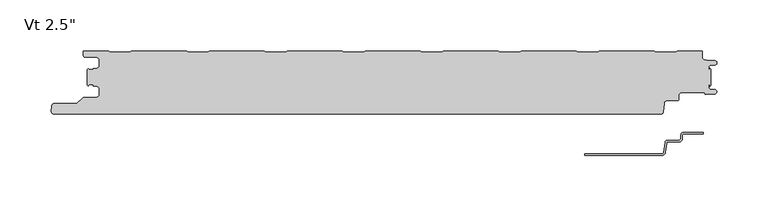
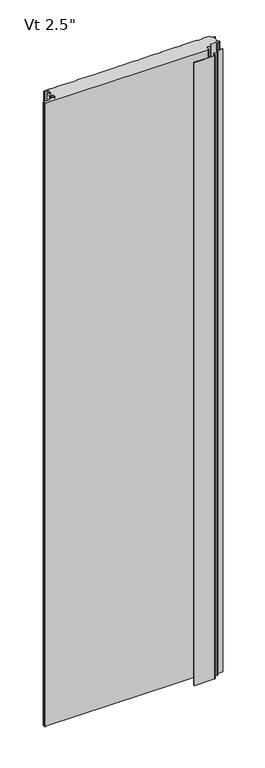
"""IFC4 building model written with IfcOpenShell, lengths in millimetres: plate geometry."""

import ifcopenshell
import ifcopenshell.guid

model = None  # the IFC model being written
_history = None  # IfcOwnerHistory: only IFC2X3 demands one
_inside = {}  # id of a spatial element -> (the spatial element, [elements in it])
_under = {}  # id of a project, library or spatial element -> (it, [spatial elements below it])
_declared = {}  # id of a project -> (the project, [libraries it declares])
_typed = {}  # id of a type object -> (the type object, [elements of that type])
_made_of = {}  # id of a material, layer set ... -> (it, [elements and type objects made of it])


def new_model(schema):
    """Start an empty IFC model of exactly this schema.

    Asked for "IFC4X3", IfcOpenShell would pick the latest addendum, in which some entities
    have other attributes; the version numbers below select the first issue.
    IFC2X3 requires an IfcOwnerHistory on every rooted entity: one is made here for all.
    """
    global model, _history
    if schema == "IFC4X3":
        model = ifcopenshell.file(schema_version=(4, 3, 0, 0))
    else:
        model = ifcopenshell.file(schema=schema)
    _inside.clear()
    _under.clear()
    _declared.clear()
    _typed.clear()
    _made_of.clear()
    _history = None
    if model.schema == "IFC2X3":
        org = make("IfcOrganization", Name="unknown")
        user = make(
            "IfcPersonAndOrganization",
            ThePerson=make("IfcPerson", FamilyName="unknown"),
            TheOrganization=org,
        )
        app = make(
            "IfcApplication",
            ApplicationDeveloper=org,
            Version="unknown",
            ApplicationFullName="unknown",
            ApplicationIdentifier="unknown",
        )
        _history = make(
            "IfcOwnerHistory",
            OwningUser=user,
            OwningApplication=app,
            ChangeAction="ADDED",
            CreationDate=0,
        )
    return model


def make(cls, **values):
    """One entity of the class cls with the attributes given. An attribute that is None is left unset."""
    return model.create_entity(
        cls, **{name: value for name, value in values.items() if value is not None}
    )


def rooted(cls, **values):
    """An entity with a GlobalId (a new one), such as an element, a storey or a relation."""
    return make(cls, GlobalId=ifcopenshell.guid.new(), OwnerHistory=_history, **values)


def si_unit(unit_type, name, prefix=None):
    """IfcSIUnit, for example si_unit("LENGTHUNIT", "METRE", prefix="MILLI")."""
    return make("IfcSIUnit", UnitType=unit_type, Prefix=prefix, Name=name)


def assignment(units):
    """IfcUnitAssignment: the units of a project."""
    return None if units is None else make("IfcUnitAssignment", Units=units)


def point(xyz):
    """IfcCartesianPoint."""
    return None if xyz is None else make("IfcCartesianPoint", Coordinates=xyz)


def direction(xyz):
    """IfcDirection."""
    return None if xyz is None else make("IfcDirection", DirectionRatios=xyz)


def frame(location, z_axis=None, x_axis=None):
    """IfcAxis2Placement3D, a coordinate frame: its origin and axes. An axis left out is left unset."""
    return make(
        "IfcAxis2Placement3D",
        Location=point(location),
        Axis=direction(z_axis),
        RefDirection=direction(x_axis),
    )


def origin():
    """The frame at (0, 0, 0) with its axes left unset."""
    return frame((0.0, 0.0, 0.0))


def place(relative_to, where):
    """IfcLocalPlacement: puts the frame where relative to a parent placement (None: the world)."""
    return make(
        "IfcLocalPlacement", PlacementRelTo=relative_to, RelativePlacement=where
    )


def context(
    kind, dimensions, precision=None, world=None, true_north=None, identifier=None
):
    """IfcGeometricRepresentationContext, for example the 3D "Model" context."""
    return make(
        "IfcGeometricRepresentationContext",
        ContextIdentifier=identifier,
        ContextType=kind,
        CoordinateSpaceDimension=dimensions,
        Precision=precision,
        WorldCoordinateSystem=world,
        TrueNorth=true_north,
    )


def project(units=None, contexts=None):
    """IfcProject with its units and contexts."""
    return rooted(
        "IfcProject",
        Name="project",
        RepresentationContexts=contexts,
        UnitsInContext=assignment(units),
    )


def spatial(cls, under=None, at=None, **own):
    """A site, building, storey or space (cls), placed at a placement, below another one or the project."""
    s = rooted(cls, ObjectPlacement=at, **own)
    if under is not None:
        _under.setdefault(under.id(), (under, []))[1].append(s)
    return s


def polyline(points):
    """IfcPolyline through the points."""
    return make("IfcPolyline", Points=[point(p) for p in points])


def circle_curve(where, radius):
    """IfcCircle in the frame where."""
    return make("IfcCircle", Position=where, Radius=radius)


def shape(context_of_items, identifier, shape_type, items):
    """IfcShapeRepresentation: the items that make up one representation, for example the "Body"."""
    return make(
        "IfcShapeRepresentation",
        ContextOfItems=context_of_items,
        RepresentationIdentifier=identifier,
        RepresentationType=shape_type,
        Items=items,
    )


def source(mapping_origin, context_of_items, identifier, shape_type, items):
    """IfcRepresentationMap: a shape defined once, which mapped items show again and again."""
    return make(
        "IfcRepresentationMap",
        MappingOrigin=mapping_origin,
        MappedRepresentation=shape(context_of_items, identifier, shape_type, items),
    )


def transform(
    local_origin,
    x_axis=None,
    y_axis=None,
    z_axis=None,
    scale=None,
    scale2=None,
    scale3=None,
    uniform=True,
):
    """IfcCartesianTransformationOperator3D, or its non-uniform kind. x_axis, y_axis, z_axis: its Axis1, 2, 3."""
    if uniform:
        return make(
            "IfcCartesianTransformationOperator3D",
            Axis1=direction(x_axis),
            Axis2=direction(y_axis),
            LocalOrigin=point(local_origin),
            Scale=scale,
            Axis3=direction(z_axis),
        )
    return make(
        "IfcCartesianTransformationOperator3DnonUniform",
        Axis1=direction(x_axis),
        Axis2=direction(y_axis),
        LocalOrigin=point(local_origin),
        Scale=scale,
        Axis3=direction(z_axis),
        Scale2=scale2,
        Scale3=scale3,
    )


def mapped(mapping_source, mapping_target):
    """IfcMappedItem: shows the shape of a source again, moved by a transform."""
    return make(
        "IfcMappedItem", MappingSource=mapping_source, MappingTarget=mapping_target
    )


def made_of(thing, what):
    """Note that an element or type object is made of a material, layer set ...; save() writes the relation."""
    if what is not None:
        _made_of.setdefault(what.id(), (what, []))[1].append(thing)
    return thing


def element(
    cls,
    number,
    at=None,
    inside=None,
    cuts=None,
    type_object=None,
    material=None,
    context=None,
    identifier="Body",
    shape_type=None,
    held_by="IfcProductDefinitionShape",
    body=None,
    shapes=None,
    **own,
):
    """One element of the class cls, such as IfcWall. Its Tag is "e" and its number.

    at: its placement. inside: the storey or other place that contains it. cuts: it is an
    opening in that element (IfcRelVoidsElement). A single representation is given by context,
    identifier, shape_type and body (its items); several are given by shapes. held_by: the class
    of the entity that holds the representations. save() writes the other relations.
    """
    e = rooted(cls, Tag="e%d" % number, ObjectPlacement=at, **own)
    if body is not None:
        shapes = [shape(context, identifier, shape_type, body)]
    if shapes is not None:
        e.Representation = make(held_by, Representations=shapes)
    if inside is not None:
        _inside.setdefault(inside.id(), (inside, []))[1].append(e)
    if cuts is not None:
        rooted(
            "IfcRelVoidsElement", RelatingBuildingElement=cuts, RelatedOpeningElement=e
        )
    if type_object is not None:
        _typed.setdefault(type_object.id(), (type_object, []))[1].append(e)
    return made_of(e, material)


def aggregate(whole, parts):
    """IfcRelAggregates: a whole, such as a stair, and the parts it consists of."""
    return rooted("IfcRelAggregates", RelatingObject=whole, RelatedObjects=parts)


def save(model, path):
    """Write the relations noted so far, then the file.

    IfcRelAggregates (storeys below a building ...), IfcRelContainedInSpatialStructure (elements
    in a storey), IfcRelDefinesByType, IfcRelAssociatesMaterial and IfcRelDeclares: one each for
    every whole, place, type object, material and project.
    """
    for whole, parts in _under.values():
        aggregate(whole, parts)
    for where, things in _inside.values():
        rooted(
            "IfcRelContainedInSpatialStructure",
            RelatedElements=things,
            RelatingStructure=where,
        )
    for kind, things in _typed.values():
        rooted("IfcRelDefinesByType", RelatedObjects=things, RelatingType=kind)
    for what, things in _made_of.values():
        rooted("IfcRelAssociatesMaterial", RelatedObjects=things, RelatingMaterial=what)
    for by, libraries in _declared.values():
        rooted("IfcRelDeclares", RelatingContext=by, RelatedDefinitions=libraries)
    model.write(path)


def plane_surface(at):
    """IfcPlane: the flat surface through the origin of the frame at, square to its z axis."""
    return make("IfcPlane", Position=at)


def cylinder_surface(at, radius):
    """IfcCylindricalSurface: all points at the distance radius from the z axis of the frame at."""
    return make("IfcCylindricalSurface", Position=at, Radius=radius)


def revolved_surface(curve, axis_point, axis_direction):
    """IfcSurfaceOfRevolution: the curve turned about the line through axis_point along axis_direction."""
    return make(
        "IfcSurfaceOfRevolution",
        SweptCurve=make("IfcArbitraryOpenProfileDef", ProfileType="CURVE", Curve=curve),
        AxisPosition=make("IfcAxis1Placement", Location=point(axis_point), Axis=direction(axis_direction)),
    )


def advanced_brep(points, edges, surfaces, faces):
    """IfcAdvancedBrep: a solid bounded by faces that lie on surfaces and meet in shared edges.

    An edge is (start, end): straight between two places in points (the first is 0);
    or (start, end, curve); or (start, end, curve, False) where it runs against its curve.
    A face is (place in surfaces, loops), or (place, loops, False) where it looks against
    its surface's normal. A loop lists edges by number (the first is 1), with a minus sign
    where the edge is run from its end to its start. The first loop is the outer one.
    """
    corners = [point(p) for p in points]
    vertices = [make("IfcVertexPoint", VertexGeometry=c) for c in corners]
    made = []
    for start, end, *more in edges:
        made.append(
            make(
                "IfcEdgeCurve",
                EdgeStart=vertices[start],
                EdgeEnd=vertices[end],
                EdgeGeometry=more[0] if more else make("IfcPolyline", Points=[corners[start], corners[end]]),
                SameSense=more[1] if len(more) > 1 else True,
            )
        )
    hull = []
    for where, loops, *sense in faces:
        bounds = []
        for j, loop in enumerate(loops):
            ring = [make("IfcOrientedEdge", EdgeElement=made[abs(k) - 1], Orientation=k > 0) for k in loop]
            bounds.append(
                make(
                    "IfcFaceOuterBound" if j == 0 else "IfcFaceBound",
                    Bound=make("IfcEdgeLoop", EdgeList=ring),
                    Orientation=True,
                )
            )
        hull.append(make("IfcAdvancedFace", Bounds=bounds, FaceSurface=surfaces[where], SameSense=sense[0] if sense else True))
    return make("IfcAdvancedBrep", Outer=make("IfcClosedShell", CfsFaces=hull))


def plate_1f315af2(model_context):
    return source(origin(), model_context, "Body", "AdvancedBrep", [
        advanced_brep(
        [(278.4543181, -80.5008679, 0.0), (297.1995181, -80.5008679, 0.0), (297.1995181, -82.0248679, 0.0), (278.4543181, -82.0248679, 0.0), (276.9303181, -83.5488679, 0.0), (276.9303181, -86.6476679, 0.0), (273.4759181, -90.1020679, 0.0), (262.2633607, -90.1020679, 0.0), (261.5042604, -90.7976552, 0.0), (260.3094328, -100.3416507, 0.0), (257.2730313, -103.124, 0.0), (181.7057181, -103.1360323, 0.0), (181.7057181, -101.6, 0.0), (257.2730313, -101.6, 0.0), (258.7912321, -100.2088254, 0.0), (259.9860597, -90.6648299, 0.0), (262.2633607, -88.5780679, 0.0), (273.4759181, -88.5780679, 0.0), (275.4063181, -86.6476679, 0.0), (275.4063181, -83.5488679, 0.0), (278.4543181, -80.5008679, 2400.0), (275.4063181, -83.5488679, 2400.0), (275.4063181, -86.6476679, 2400.0), (273.4759181, -88.5780679, 2400.0), (262.2633607, -88.5780679, 2400.0), (259.9860597, -90.6648299, 2400.0), (258.7912321, -100.2088254, 2400.0), (257.2730313, -101.6, 2400.0), (181.7057181, -101.6, 2400.0), (181.7057181, -103.1360323, 2400.0), (257.2730313, -103.1360323, 2400.0), (260.3094328, -100.3416507, 2400.0), (261.5042604, -90.7976552, 2400.0), (262.2633607, -90.1020679, 2400.0), (273.4759181, -90.1020679, 2400.0), (276.9303181, -86.6476679, 2400.0), (276.9303181, -83.5488679, 2400.0), (278.4543181, -82.0248679, 2400.0), (297.1995181, -82.0248679, 2400.0), (297.1995181, -80.5008679, 2400.0)],
        [
            (0, 1),
            (1, 2),
            (2, 3),
            (3, 4, circle_curve(frame((278.4543181, -83.5488679, 0.0), z_axis=(0.0, 0.0, 1.0), x_axis=(0.0, 1.0, 0.0)), 1.524)),
            (4, 5),
            (5, 6, circle_curve(frame((273.4759181, -86.6476679, 0.0), z_axis=(0.0, 0.0, -1.0), x_axis=(0.0, 1.0, 0.0)), 3.4544)),
            (6, 7),
            (7, 8, circle_curve(frame((262.2633607, -90.8640679, 0.0), z_axis=(0.0, 0.0, 1.0), x_axis=(0.0, 1.0, 0.0)), 0.762)),
            (8, 9),
            (9, 10, circle_curve(frame((257.2730313, -100.076, 0.0), z_axis=(0.0, 0.0, -1.0), x_axis=(0.0, 1.0, 0.0)), 3.048)),
            (10, 11),
            (11, 12),
            (12, 13),
            (13, 14, circle_curve(frame((257.2730313, -100.076, 0.0), z_axis=(0.0, 0.0, 1.0), x_axis=(0.0, 1.0, 0.0)), 1.524)),
            (14, 15),
            (15, 16, circle_curve(frame((262.2633607, -90.8640679, 0.0), z_axis=(0.0, 0.0, -1.0), x_axis=(0.0, 1.0, 0.0)), 2.286)),
            (16, 17),
            (17, 18, circle_curve(frame((273.4759181, -86.6476679, 0.0), z_axis=(0.0, 0.0, 1.0), x_axis=(0.0, 1.0, 0.0)), 1.9304)),
            (18, 19),
            (19, 0, circle_curve(frame((278.4543181, -83.5488679, 0.0), z_axis=(0.0, 0.0, -1.0), x_axis=(0.0, 1.0, 0.0)), 3.048)),
            (20, 21, circle_curve(frame((278.4543181, -83.5488679, 2400.0), z_axis=(0.0, 0.0, 1.0), x_axis=(0.0, 1.0, 0.0)), 3.048)),
            (21, 22),
            (22, 23, circle_curve(frame((273.4759181, -86.6476679, 2400.0), z_axis=(0.0, 0.0, -1.0), x_axis=(0.0, 1.0, 0.0)), 1.9304)),
            (23, 24),
            (24, 25, circle_curve(frame((262.2633607, -90.8640679, 2400.0), z_axis=(0.0, 0.0, 1.0), x_axis=(0.0, 1.0, 0.0)), 2.286)),
            (25, 26),
            (26, 27, circle_curve(frame((257.2730313, -100.076, 2400.0), z_axis=(0.0, 0.0, -1.0), x_axis=(0.0, 1.0, 0.0)), 1.524)),
            (27, 28),
            (28, 29),
            (29, 30),
            (30, 31, circle_curve(frame((257.2730313, -100.076, 2400.0), z_axis=(0.0, 0.0, 1.0), x_axis=(0.0, 1.0, 0.0)), 3.048)),
            (31, 32),
            (32, 33, circle_curve(frame((262.2633607, -90.8640679, 2400.0), z_axis=(0.0, 0.0, -1.0), x_axis=(0.0, 1.0, 0.0)), 0.762)),
            (33, 34),
            (34, 35, circle_curve(frame((273.4759181, -86.6476679, 2400.0), z_axis=(0.0, 0.0, 1.0), x_axis=(0.0, 1.0, 0.0)), 3.4544)),
            (35, 36),
            (36, 37, circle_curve(frame((278.4543181, -83.5488679, 2400.0), z_axis=(0.0, 0.0, -1.0), x_axis=(0.0, 1.0, 0.0)), 1.524)),
            (37, 38),
            (38, 39),
            (39, 20),
            (2, 38),
            (37, 3),
            (15, 25),
            (24, 16),
            (7, 33),
            (32, 8),
            (5, 35),
            (34, 6),
            (1, 39),
            (36, 4),
            (9, 31),
            (30, 10),
            (13, 27),
            (26, 14),
            (0, 20),
            (12, 28),
            (29, 11),
            (23, 17),
            (18, 22),
            (21, 19),
        ],
        [
            plane_surface(frame((297.1995181, -101.6, 0.0), z_axis=(0.0, 0.0, -1.0), x_axis=(-1.0, 0.0, 0.0))),
            plane_surface(frame((297.1995181, -101.6, 2400.0), z_axis=(0.0, 0.0, 1.0), x_axis=(-1.0, 0.0, 0.0))),
            plane_surface(frame((278.4543181, -82.0248679, 0.0), z_axis=(0.0, -1.0, 0.0), x_axis=(0.0, 0.0, 1.0))),
            cylinder_surface(frame((262.2633607, -90.8640679, 0.0), z_axis=(0.0, 0.0, -1.0), x_axis=(0.0, 1.0, 0.0)), 2.286),
            revolved_surface(polyline([(262.2633607, -90.1020679, 2400.0), (262.2633607, -90.1020679, 0.0)]), (262.2633607, -90.8640679, 0.0), (0.0, 0.0, 1.0)),
            cylinder_surface(frame((273.4759181, -86.6476679, 0.0), z_axis=(0.0, 0.0, -1.0), x_axis=(0.0, 1.0, 0.0)), 3.4544),
            plane_surface(frame((297.1995181, -82.0248679, 0.0), z_axis=(1.0, 0.0, 0.0), x_axis=(0.0, 0.0, 1.0))),
            revolved_surface(polyline([(278.4543181, -82.0248679, 2400.0), (278.4543181, -82.0248679, 0.0)]), (278.4543181, -83.5488679, 0.0), (0.0, 0.0, 1.0)),
            cylinder_surface(frame((257.2730313, -100.076, 0.0), z_axis=(0.0, 0.0, -1.0), x_axis=(0.0, 1.0, 0.0)), 3.048),
            revolved_surface(polyline([(257.2730313, -98.55199999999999, 2400.0), (257.2730313, -98.55199999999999, 0.0)]), (257.2730313, -100.076, 0.0), (0.0, 0.0, 1.0)),
            plane_surface(frame((297.1995181, -80.5008679, 0.0), z_axis=(0.0, 1.0, 0.0), x_axis=(0.0, 0.0, 1.0))),
            plane_surface(frame((259.9860597, -90.6648299, 0.0), z_axis=(-0.992254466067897, 0.12422187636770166, 0.0), x_axis=(0.0, 0.0, 1.0))),
            plane_surface(frame((257.2730313, -101.6, 0.0), z_axis=(0.0, 1.0, 0.0), x_axis=(0.0, 0.0, 1.0))),
            plane_surface(frame((260.3094328, -100.3416507, 0.0), z_axis=(0.9922544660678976, -0.12422187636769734, 0.0), x_axis=(0.0, 0.0, 1.0))),
            plane_surface(frame((276.9303181, -86.6476679, 0.0), z_axis=(1.0, 0.0, 0.0), x_axis=(0.0, 0.0, 1.0))),
            plane_surface(frame((181.7057181, -103.1360323, 0.0), z_axis=(0.0, -1.0, 0.0), x_axis=(0.0, 0.0, 1.0))),
            plane_surface(frame((181.7057181, -101.6, 0.0), z_axis=(-1.0, 0.0, 0.0), x_axis=(0.0, 0.0, 1.0))),
            plane_surface(frame((273.4759181, -88.5780679, 0.0), z_axis=(0.0, 1.0, 0.0), x_axis=(0.0, 0.0, 1.0))),
            plane_surface(frame((275.4063181, -83.5488679, 0.0), z_axis=(-1.0, 0.0, 0.0), x_axis=(0.0, 0.0, 1.0))),
            plane_surface(frame((262.2633607, -90.1020679, 0.0), z_axis=(0.0, -1.0, 0.0), x_axis=(0.0, 0.0, 1.0))),
            revolved_surface(polyline([(273.4759181, -84.7172679, 2400.0), (273.4759181, -84.7172679, 0.0)]), (273.4759181, -86.6476679, 0.0), (0.0, 0.0, 1.0)),
            cylinder_surface(frame((278.4543181, -83.5488679, 0.0), z_axis=(0.0, 0.0, -1.0), x_axis=(0.0, 1.0, 0.0)), 3.048),
        ],
        [
            (0, [[1, 2, 3, 4, 5, 6, 7, 8, 9, 10, 11, 12, 13, 14, 15, 16, 17, 18, 19, 20]]),
            (1, [[21, 22, 23, 24, 25, 26, 27, 28, 29, 30, 31, 32, 33, 34, 35, 36, 37, 38, 39, 40]]),
            (2, [[41, -38, 42, -3]]),
            (3, [[43, -25, 44, -16]]),
            (4, [[45, -33, 46, -8]]),
            (5, [[47, -35, 48, -6]]),
            (6, [[49, -39, -41, -2]]),
            (7, [[-42, -37, 50, -4]]),
            (8, [[51, -31, 52, -10]]),
            (9, [[53, -27, 54, -14]]),
            (10, [[55, -40, -49, -1]]),
            (11, [[-54, -26, -43, -15]]),
            (12, [[56, -28, -53, -13]]),
            (13, [[-46, -32, -51, -9]]),
            (14, [[-50, -36, -47, -5]]),
            (15, [[-52, -30, 57, -11]]),
            (16, [[-57, -29, -56, -12]]),
            (17, [[-44, -24, 58, -17]]),
            (18, [[59, -22, 60, -19]]),
            (19, [[-48, -34, -45, -7]]),
            (20, [[-58, -23, -59, -18]]),
            (21, [[-60, -21, -55, -20]]),
        ],
    ),
        advanced_brep(
        [(-303.7683001, -35.170875, 2400.0), (-302.5671761, -34.0014003, 2400.0), (-298.8087827, -34.0014003, 2400.0), (-298.8087827, -35.3998791, 2400.0), (-296.1096717, -35.3998791, 2400.0), (-292.7596764, -38.7498744, 2400.0), (-292.7596764, -43.1498656, 2400.0), (-296.1096717, -46.4998609, 2400.0), (-307.9205608, -46.4998609, 2400.0), (-309.1226385, -46.9977778, 2400.0), (-314.6247096, -52.4998489, 2400.0), (-336.7198392, -52.4998489, 2400.0), (-339.3765709, -54.7184509, 2400.0), (-339.8125699, -59.7002718, 2400.0), (-337.2521176, -62.4945967, 2400.0), (256.315622, -62.5, 2400.0), (258.2669057, -60.7149259, 2400.0), (259.021161, -52.2539491, 2400.0), (262.1653654, -49.4906462, 2400.0), (272.2583308, -49.4906462, 2400.0), (273.2097394, -48.5392375, 2400.0), (273.2097394, -45.3955822, 2400.0), (277.2091924, -41.3961292, 2400.0), (298.3895515, -41.3961292, 2400.0), (299.5334028, -43.376977, 2400.0), (308.506811, -43.0217167, 2400.0), (308.5037148, -38.8211391, 2400.0), (304.4977997, -38.5767242, 2400.0), (302.7686884, -36.7819116, 2400.0), (302.7686884, -33.997365, 2400.0), (303.7686884, -33.997365, 2400.0), (303.7686884, -35.584865, 2400.0), (304.8, -34.5535534, 2400.0), (304.8, -18.6184525, 2400.0), (303.7686884, -17.5871409, 2400.0), (303.7686884, -19.0015288, 2400.0), (302.7686884, -19.0015288, 2400.0), (302.7686884, -16.6743462, 2400.0), (304.4513685, -14.9256429, 2400.0), (308.5921924, -14.7059822, 2400.0), (308.5931719, -10.4046442, 2400.0), (300.1016499, -9.9974365, 2400.0), (296.2787013, -6.0026007, 2400.0), (296.2787013, -1.0, 2400.0), (271.7794011, -1.0, 2400.0), (270.3937682, -2.2002307, 2400.0), (251.0186019, -2.2002307, 2400.0), (249.6329689, -1.0, 2400.0), (195.5795535, -1.0, 2400.0), (194.1939206, -2.2002307, 2400.0), (174.8187543, -2.2002307, 2400.0), (173.4331213, -1.0, 2400.0), (119.3797059, -1.0, 2400.0), (117.994073, -2.2002307, 2400.0), (98.6189067, -2.2002307, 2400.0), (97.2332737, -1.0, 2400.0), (43.1798583, -1.0, 2400.0), (41.7942254, -2.2002307, 2400.0), (22.4190591, -2.2002307, 2400.0), (21.0334261, -1.0, 2400.0), (-33.0199893, -1.0, 2400.0), (-34.4056222, -2.2002307, 2400.0), (-53.7807885, -2.2002307, 2400.0), (-55.1664215, -1.0, 2400.0), (-109.2198369, -1.0, 2400.0), (-110.6054698, -2.2002307, 2400.0), (-129.9806361, -2.2002307, 2400.0), (-131.3662691, -1.0, 2400.0), (-185.4196845, -1.0, 2400.0), (-186.8053174, -2.2002307, 2400.0), (-206.1804837, -2.2002307, 2400.0), (-207.5661167, -1.0, 2400.0), (-261.6195321, -1.0, 2400.0), (-263.005165, -2.2002307, 2400.0), (-282.3803313, -2.2002307, 2400.0), (-283.765974, -0.9999916, 2400.0), (-308.2662506, -0.9999916, 2400.0), (-308.2662506, -5.2315389, 2400.0), (-306.4962564, -7.0015331, 2400.0), (-296.0762778, -7.0015331, 2400.0), (-292.776282, -10.301529, 2400.0), (-292.776282, -14.7015202, 2400.0), (-296.0762777, -18.0015159, 2400.0), (-298.7684875, -18.0015159, 2400.0), (-298.7684875, -19.0015105, 2400.0), (-302.7686911, -19.0015105, 2400.0), (-303.7686883, -18.0015192, 2400.0), (-304.8, -19.0328308, 2400.0), (-304.8, -34.1391751, 2400.0), (-303.7683001, -35.170875, 0.0), (-304.8, -34.1391751, 0.0), (-304.8, -19.0328308, 0.0), (-303.7686883, -18.0015192, 0.0), (-302.7686911, -19.0015105, 0.0), (-298.7684875, -19.0015105, 0.0), (-298.7684875, -18.0015159, 0.0), (-296.0762777, -18.0015159, 0.0), (-292.776282, -14.7015202, 0.0), (-292.776282, -10.301529, 0.0), (-296.0762778, -7.0015331, 0.0), (-306.4962564, -7.0015331, 0.0), (-308.2662506, -5.2315389, 0.0), (-308.2662506, -0.9999916, 0.0), (-283.765974, -0.9999916, 0.0), (-282.3803313, -2.2002307, 0.0), (-263.005165, -2.2002307, 0.0), (-261.6195321, -1.0, 0.0), (-207.5661167, -1.0, 0.0), (-206.1804837, -2.2002307, 0.0), (-186.8053174, -2.2002307, 0.0), (-185.4196845, -1.0, 0.0), (-131.3662691, -1.0, 0.0), (-129.9806361, -2.2002307, 0.0), (-110.6054698, -2.2002307, 0.0), (-109.2198369, -1.0, 0.0), (-55.1664215, -1.0, 0.0), (-53.7807885, -2.2002307, 0.0), (-34.4056222, -2.2002307, 0.0), (-33.0199893, -1.0, 0.0), (21.0334261, -1.0, 0.0), (22.4190591, -2.2002307, 0.0), (41.7942254, -2.2002307, 0.0), (43.1798583, -1.0, 0.0), (97.2332737, -1.0, 0.0), (98.6189067, -2.2002307, 0.0), (117.994073, -2.2002307, 0.0), (119.3797059, -1.0, 0.0), (173.4331213, -1.0, 0.0), (174.8187543, -2.2002307, 0.0), (194.1939206, -2.2002307, 0.0), (195.5795535, -1.0, 0.0), (249.6329689, -1.0, 0.0), (251.0186019, -2.2002307, 0.0), (270.3937682, -2.2002307, 0.0), (271.7794011, -1.0, 0.0), (296.2787013, -1.0, 0.0), (296.2787013, -6.0026007, 0.0), (300.1016499, -9.9974365, 0.0), (308.5931719, -10.4046442, 0.0), (308.5921924, -14.7059822, 0.0), (304.4513685, -14.9256429, 0.0), (302.7686884, -16.6743462, 0.0), (302.7686884, -19.0015288, 0.0), (303.7686884, -19.0015288, 0.0), (303.7686884, -17.5871409, 0.0), (304.8, -18.6184525, 0.0), (304.8, -34.5535534, 0.0), (303.7686884, -35.584865, 0.0), (303.7686884, -33.997365, 0.0), (302.7686884, -33.997365, 0.0), (302.7686884, -36.7819116, 0.0), (304.4977997, -38.5767242, 0.0), (308.5037148, -38.8211391, 0.0), (308.506811, -43.0217167, 0.0), (299.5334028, -43.376977, 0.0), (298.3895515, -41.3961292, 0.0), (277.2091924, -41.3961292, 0.0), (273.2097394, -45.3955822, 0.0), (273.2097394, -48.5392375, 0.0), (272.2583308, -49.4906462, 0.0), (262.1653654, -49.4906462, 0.0), (259.021161, -52.2539491, 0.0), (258.2669057, -60.7149259, 0.0), (256.315622, -62.5, 0.0), (-337.2521176, -62.5, 0.0), (-339.8125699, -59.7002718, 0.0), (-339.3765709, -54.7184509, 0.0), (-336.7198392, -52.4998489, 0.0), (-314.6247096, -52.4998489, 0.0), (-309.1226385, -46.9977778, 0.0), (-307.9205608, -46.4998609, 0.0), (-296.1096717, -46.4998609, 0.0), (-292.7596764, -43.1498656, 0.0), (-292.7596764, -38.7498744, 0.0), (-296.1096717, -35.3998791, 0.0), (-298.8087827, -35.3998791, 0.0), (-298.8087827, -34.0014003, 0.0), (-302.5671761, -34.0014003, 0.0)],
        [
            (0, 1, circle_curve(frame((-302.5686908, -35.2013969, 2400.0), z_axis=(0.0, 0.0, -1.0), x_axis=(-1.0, 0.0, 0.0)), 1.1999976)),
            (1, 2),
            (2, 3),
            (3, 4),
            (4, 5, circle_curve(frame((-296.1096717, -38.7498744, 2400.0), z_axis=(0.0, 0.0, -1.0), x_axis=(-1.0, 0.0, 0.0)), 3.3499953)),
            (5, 6),
            (6, 7, circle_curve(frame((-296.1096717, -43.1498656, 2400.0), z_axis=(0.0, 0.0, -1.0), x_axis=(-1.0, 0.0, 0.0)), 3.3499953)),
            (7, 8),
            (8, 9, circle_curve(frame((-307.9205608, -48.1998555, 2400.0), z_axis=(0.0, 0.0, 1.0), x_axis=(-1.0, 0.0, 0.0)), 1.6999946)),
            (9, 10),
            (10, 11),
            (11, 12, circle_curve(frame((-336.7198392, -55.1998415, 2400.0), z_axis=(0.0, 0.0, 1.0), x_axis=(-1.0, 0.0, 0.0)), 2.6999926)),
            (12, 13),
            (13, 14, circle_curve(frame((-337.2521176, -59.9243575, 2400.0), z_axis=(0.0, 0.0, 1.0), x_axis=(-1.0, 0.0, 0.0)), 2.5702393)),
            (14, 15),
            (15, 16, circle_curve(frame((256.315622, -60.5409784, 2400.0), z_axis=(0.0, 0.0, 1.0), x_axis=(-1.0, 0.0, 0.0)), 1.9590216)),
            (16, 17),
            (17, 18, circle_curve(frame((262.0396267, -52.5180321, 2400.0), z_axis=(0.0, 0.0, -1.0), x_axis=(-1.0, 0.0, 0.0)), 3.0299959)),
            (18, 19),
            (19, 20, circle_curve(frame((272.2583308, -48.5392375, 2400.0), z_axis=(0.0, 0.0, 1.0), x_axis=(-1.0, 0.0, 0.0)), 0.9514087)),
            (20, 21),
            (21, 22, circle_curve(frame((277.2091924, -45.3955822, 2400.0), z_axis=(0.0, 0.0, -1.0), x_axis=(-1.0, 0.0, 0.0)), 3.9994529)),
            (22, 23),
            (23, 24),
            (24, 25),
            (25, 26, circle_curve(frame((308.4236622, -40.921488, 2400.0), z_axis=(0.0, 0.0, 1.0), x_axis=(-1.0, 0.0, 0.0)), 2.1018739)),
            (26, 27),
            (27, 28, circle_curve(frame((304.6099653, -36.7383506, 2400.0), z_axis=(0.0, 0.0, -1.0), x_axis=(-1.0, 0.0, 0.0)), 1.8417922)),
            (28, 29),
            (29, 30),
            (30, 31),
            (31, 32),
            (32, 33),
            (33, 34),
            (34, 35),
            (35, 36),
            (36, 37),
            (37, 38, circle_curve(frame((304.5186869, -16.6743462, 2400.0), z_axis=(0.0, 0.0, -1.0), x_axis=(1.0, 0.0, 0.0)), 1.7499985)),
            (38, 39),
            (39, 40, circle_curve(frame((308.4781032, -12.5552871, 2400.0), z_axis=(0.0, 0.0, 1.0), x_axis=(1.0, 0.0, 0.0)), 2.153719)),
            (40, 41),
            (41, 42, circle_curve(frame((300.2939817, -5.9867338, 2400.0), z_axis=(0.0, 0.0, -1.0), x_axis=(1.0, 0.0, 0.0)), 4.0153117)),
            (42, 43),
            (43, 44),
            (44, 45),
            (45, 46),
            (46, 47),
            (47, 48),
            (48, 49),
            (49, 50),
            (50, 51),
            (51, 52),
            (52, 53),
            (53, 54),
            (54, 55),
            (55, 56),
            (56, 57),
            (57, 58),
            (58, 59),
            (59, 60),
            (60, 61),
            (61, 62),
            (62, 63),
            (63, 64),
            (64, 65),
            (65, 66),
            (66, 67),
            (67, 68),
            (68, 69),
            (69, 70),
            (70, 71),
            (71, 72),
            (72, 73),
            (73, 74),
            (74, 75),
            (75, 76),
            (76, 77),
            (77, 78, circle_curve(frame((-306.4962564, -5.2315389, 2400.0), z_axis=(0.0, 0.0, 1.0), x_axis=(1.0, 0.0, 0.0)), 1.7699942)),
            (78, 79),
            (79, 80, circle_curve(frame((-296.0762778, -10.301529, 2400.0), z_axis=(0.0, 0.0, -1.0), x_axis=(1.0, 0.0, 0.0)), 3.2999959)),
            (80, 81),
            (81, 82, circle_curve(frame((-296.0762777, -14.7015202, 2400.0), z_axis=(0.0, 0.0, -1.0), x_axis=(1.0, 0.0, 0.0)), 3.2999957)),
            (82, 83),
            (83, 84),
            (84, 85),
            (85, 86, circle_curve(frame((-302.7686911, -18.0015133, 2400.0), z_axis=(0.0, 0.0, -1.0), x_axis=(1.0, 0.0, 0.0)), 0.9999972)),
            (86, 87),
            (87, 88),
            (88, 0),
            (89, 90),
            (90, 91),
            (91, 92),
            (92, 93, circle_curve(frame((-302.7686911, -18.0015133, 0.0), z_axis=(0.0, 0.0, 1.0), x_axis=(1.0, 0.0, 0.0)), 0.9999972)),
            (93, 94),
            (94, 95),
            (95, 96),
            (96, 97, circle_curve(frame((-296.0762777, -14.7015202, 0.0), z_axis=(0.0, 0.0, 1.0), x_axis=(1.0, 0.0, 0.0)), 3.2999957)),
            (97, 98),
            (98, 99, circle_curve(frame((-296.0762778, -10.301529, 0.0), z_axis=(0.0, 0.0, 1.0), x_axis=(1.0, 0.0, 0.0)), 3.2999959)),
            (99, 100),
            (100, 101, circle_curve(frame((-306.4962564, -5.2315389, 0.0), z_axis=(0.0, 0.0, -1.0), x_axis=(1.0, 0.0, 0.0)), 1.7699942)),
            (101, 102),
            (102, 103),
            (103, 104),
            (104, 105),
            (105, 106),
            (106, 107),
            (107, 108),
            (108, 109),
            (109, 110),
            (110, 111),
            (111, 112),
            (112, 113),
            (113, 114),
            (114, 115),
            (115, 116),
            (116, 117),
            (117, 118),
            (118, 119),
            (119, 120),
            (120, 121),
            (121, 122),
            (122, 123),
            (123, 124),
            (124, 125),
            (125, 126),
            (126, 127),
            (127, 128),
            (128, 129),
            (129, 130),
            (130, 131),
            (131, 132),
            (132, 133),
            (133, 134),
            (134, 135),
            (135, 136),
            (136, 137, circle_curve(frame((300.2939817, -5.9867338, 0.0), z_axis=(0.0, 0.0, 1.0), x_axis=(1.0, 0.0, 0.0)), 4.0153117)),
            (137, 138),
            (138, 139, circle_curve(frame((308.4781032, -12.5552871, 0.0), z_axis=(0.0, 0.0, -1.0), x_axis=(1.0, 0.0, 0.0)), 2.153719)),
            (139, 140),
            (140, 141, circle_curve(frame((304.5186869, -16.6743462, 0.0), z_axis=(0.0, 0.0, 1.0), x_axis=(1.0, 0.0, 0.0)), 1.7499985)),
            (141, 142),
            (142, 143),
            (143, 144),
            (144, 145),
            (145, 146),
            (146, 147),
            (147, 148),
            (148, 149),
            (149, 150),
            (150, 151, circle_curve(frame((304.6099653, -36.7383506, 0.0), z_axis=(0.0, 0.0, 1.0), x_axis=(-1.0, 0.0, 0.0)), 1.8417922)),
            (151, 152),
            (152, 153, circle_curve(frame((308.4236622, -40.921488, 0.0), z_axis=(0.0, 0.0, -1.0), x_axis=(-1.0, 0.0, 0.0)), 2.1018739)),
            (153, 154),
            (154, 155),
            (155, 156),
            (156, 157, circle_curve(frame((277.2091924, -45.3955822, 0.0), z_axis=(0.0, 0.0, 1.0), x_axis=(-1.0, 0.0, 0.0)), 3.9994529)),
            (157, 158),
            (158, 159, circle_curve(frame((272.2583308, -48.5392375, 0.0), z_axis=(0.0, 0.0, -1.0), x_axis=(-1.0, 0.0, 0.0)), 0.9514087)),
            (159, 160),
            (160, 161, circle_curve(frame((262.0396267, -52.5180321, 0.0), z_axis=(0.0, 0.0, 1.0), x_axis=(-1.0, 0.0, 0.0)), 3.0299959)),
            (161, 162),
            (162, 163, circle_curve(frame((256.315622, -60.5409784, 0.0), z_axis=(0.0, 0.0, -1.0), x_axis=(-1.0, 0.0, 0.0)), 1.9590216)),
            (163, 164),
            (164, 165, circle_curve(frame((-337.2521176, -59.9243575, 0.0), z_axis=(0.0, 0.0, -1.0), x_axis=(-1.0, 0.0, 0.0)), 2.5702393)),
            (165, 166),
            (166, 167, circle_curve(frame((-336.7198392, -55.1998415, 0.0), z_axis=(0.0, 0.0, -1.0), x_axis=(-1.0, 0.0, 0.0)), 2.6999926)),
            (167, 168),
            (168, 169),
            (169, 170, circle_curve(frame((-307.9205608, -48.1998555, 0.0), z_axis=(0.0, 0.0, -1.0), x_axis=(-1.0, 0.0, 0.0)), 1.6999946)),
            (170, 171),
            (171, 172, circle_curve(frame((-296.1096717, -43.1498656, 0.0), z_axis=(0.0, 0.0, 1.0), x_axis=(-1.0, 0.0, 0.0)), 3.3499953)),
            (172, 173),
            (173, 174, circle_curve(frame((-296.1096717, -38.7498744, 0.0), z_axis=(0.0, 0.0, 1.0), x_axis=(-1.0, 0.0, 0.0)), 3.3499953)),
            (174, 175),
            (175, 176),
            (176, 177),
            (177, 89, circle_curve(frame((-302.5686908, -35.2013969, 0.0), z_axis=(0.0, 0.0, 1.0), x_axis=(-1.0, 0.0, 0.0)), 1.1999976)),
            (88, 90),
            (89, 0),
            (87, 91),
            (32, 146),
            (145, 33),
            (31, 147),
            (30, 148),
            (29, 149),
            (28, 150),
            (27, 151),
            (26, 152),
            (25, 153),
            (24, 154),
            (23, 155),
            (22, 156),
            (21, 157),
            (20, 158),
            (19, 159),
            (18, 160),
            (17, 161),
            (16, 162),
            (15, 163),
            (14, 164),
            (13, 165),
            (12, 166),
            (11, 167),
            (10, 168),
            (9, 169),
            (8, 170),
            (7, 171),
            (6, 172),
            (5, 173),
            (4, 174),
            (3, 175),
            (2, 176),
            (1, 177),
            (86, 92),
            (85, 93),
            (84, 94),
            (83, 95),
            (82, 96),
            (81, 97),
            (80, 98),
            (79, 99),
            (78, 100),
            (77, 101),
            (76, 102),
            (41, 137),
            (136, 42),
            (40, 138),
            (39, 139),
            (38, 140),
            (37, 141),
            (36, 142),
            (35, 143),
            (34, 144),
            (74, 104),
            (103, 75),
            (73, 105),
            (72, 106),
            (71, 107),
            (70, 108),
            (69, 109),
            (68, 110),
            (67, 111),
            (66, 112),
            (65, 113),
            (64, 114),
            (63, 115),
            (62, 116),
            (61, 117),
            (60, 118),
            (59, 119),
            (58, 120),
            (57, 121),
            (56, 122),
            (55, 123),
            (54, 124),
            (53, 125),
            (52, 126),
            (51, 127),
            (50, 128),
            (49, 129),
            (48, 130),
            (47, 131),
            (46, 132),
            (45, 133),
            (44, 134),
            (43, 135),
        ],
        [
            plane_surface(frame((0.0, -62.5, 2400.0), z_axis=(0.0, 0.0, 1.0), x_axis=(0.0, -1.0, 0.0))),
            plane_surface(frame((0.0, -62.5, 0.0), z_axis=(0.0, 0.0, -1.0), x_axis=(0.0, -1.0, 0.0))),
            plane_surface(frame((-303.7683001, -35.170875, 2400.0), z_axis=(-0.7071067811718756, -0.7071067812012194, 0.0), x_axis=(0.0, 0.0, -1.0))),
            plane_surface(frame((-304.8, -34.1391751, 2400.0), z_axis=(-1.0, 0.0, 0.0), x_axis=(0.0, 0.0, -1.0))),
            plane_surface(frame((304.8, -33.1391751, 2400.0), z_axis=(1.0, 0.0, 0.0), x_axis=(0.0, 0.0, -1.0))),
            plane_surface(frame((304.8, -34.5535534, 2400.0), z_axis=(0.7071067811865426, -0.7071067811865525, 0.0), x_axis=(0.0, 0.0, -1.0))),
            plane_surface(frame((303.7686884, -35.584865, 2400.0), z_axis=(-1.0, 0.0, 0.0), x_axis=(0.0, 0.0, -1.0))),
            plane_surface(frame((303.7686884, -33.997365, 2400.0), z_axis=(0.0, -1.0, 0.0), x_axis=(0.0, 0.0, -1.0))),
            plane_surface(frame((302.7686884, -33.997365, 2400.0), z_axis=(1.0, 0.0, 0.0), x_axis=(0.0, 0.0, -1.0))),
            revolved_surface(polyline([(302.7681731, -36.7383506, 0.0), (302.7681731, -36.7383506, 2400.0)]), (304.6099653, -36.7383506, 2400.0), (0.0, 0.0, -1.0)),
            plane_surface(frame((304.4977997, -38.5767242, 2400.0), z_axis=(0.06090025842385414, 0.9981438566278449, 0.0), x_axis=(0.0, 0.0, -1.0))),
            cylinder_surface(frame((308.4236622, -40.921488, 2400.0), z_axis=(0.0, 0.0, 1.0), x_axis=(-1.0, 0.0, 0.0)), 2.1018739),
            plane_surface(frame((308.506811, -43.0217167, 2400.0), z_axis=(0.03955935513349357, -0.9992172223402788, 0.0), x_axis=(0.0, 0.0, -1.0))),
            plane_surface(frame((299.5334028, -43.376977, 2400.0), z_axis=(-0.8659859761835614, -0.5000682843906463, 0.0), x_axis=(0.0, 0.0, -1.0))),
            plane_surface(frame((298.3895515, -41.3961292, 2400.0), z_axis=(0.0, -1.0, 0.0), x_axis=(0.0, 0.0, -1.0))),
            revolved_surface(polyline([(273.2097395, -45.3955822, 0.0), (273.2097395, -45.3955822, 2400.0)]), (277.2091924, -45.3955822, 2400.0), (0.0, 0.0, -1.0)),
            plane_surface(frame((273.2097394, -45.3955822, 2400.0), z_axis=(1.0, 0.0, 0.0), x_axis=(0.0, 0.0, -1.0))),
            cylinder_surface(frame((272.2583308, -48.5392375, 2400.0), z_axis=(0.0, 0.0, 1.0), x_axis=(-1.0, 0.0, 0.0)), 0.9514087),
            plane_surface(frame((272.2583308, -49.4906462, 2400.0), z_axis=(0.0, -1.0, 0.0), x_axis=(0.0, 0.0, -1.0))),
            revolved_surface(polyline([(259.00963079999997, -52.5180321, 0.0), (259.00963079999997, -52.5180321, 2400.0)]), (262.0396267, -52.5180321, 2400.0), (0.0, 0.0, -1.0)),
            plane_surface(frame((259.021161, -52.2539491, 2400.0), z_axis=(0.9960500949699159, -0.08879306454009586, 0.0), x_axis=(0.0, 0.0, -1.0))),
            cylinder_surface(frame((256.315622, -60.5409784, 2400.0), z_axis=(0.0, 0.0, 1.0), x_axis=(-1.0, 0.0, 0.0)), 1.9590216),
            plane_surface(frame((256.315622, -62.5, 2400.0), z_axis=(0.0, -1.0, 0.0), x_axis=(0.0, 0.0, -1.0))),
            cylinder_surface(frame((-337.2521176, -59.9243575, 2400.0), z_axis=(0.0, 0.0, 1.0), x_axis=(-1.0, 0.0, 0.0)), 2.5702393),
            plane_surface(frame((-339.8125699, -59.7002718, 2400.0), z_axis=(-0.9961921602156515, 0.08718474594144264, 0.0), x_axis=(0.0, 0.0, -1.0))),
            cylinder_surface(frame((-336.7198392, -55.1998415, 2400.0), z_axis=(0.0, 0.0, 1.0), x_axis=(-1.0, 0.0, 0.0)), 2.6999926),
            plane_surface(frame((-336.7198392, -52.4998489, 2400.0), z_axis=(0.0, 1.0, 0.0), x_axis=(0.0, 0.0, -1.0))),
            plane_surface(frame((-314.6247096, -52.4998489, 2400.0), z_axis=(-0.7071067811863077, 0.7071067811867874, 0.0), x_axis=(0.0, 0.0, -1.0))),
            cylinder_surface(frame((-307.9205608, -48.1998555, 2400.0), z_axis=(0.0, 0.0, 1.0), x_axis=(-1.0, 0.0, 0.0)), 1.6999946),
            plane_surface(frame((-307.9205608, -46.4998609, 2400.0), z_axis=(0.0, 1.0, 0.0), x_axis=(0.0, 0.0, -1.0))),
            revolved_surface(polyline([(-299.45966699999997, -43.1498656, 0.0), (-299.45966699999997, -43.1498656, 2400.0)]), (-296.1096717, -43.1498656, 2400.0), (0.0, 0.0, -1.0)),
            plane_surface(frame((-292.7596764, -43.1498656, 2400.0), z_axis=(-1.0, 0.0, 0.0), x_axis=(0.0, 0.0, -1.0))),
            revolved_surface(polyline([(-299.45966699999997, -38.7498744, 0.0), (-299.45966699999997, -38.7498744, 2400.0)]), (-296.1096717, -38.7498744, 2400.0), (0.0, 0.0, -1.0)),
            plane_surface(frame((-296.1096717, -35.3998791, 2400.0), z_axis=(0.0, -1.0, 0.0), x_axis=(0.0, 0.0, -1.0))),
            plane_surface(frame((-298.8087827, -35.3998791, 2400.0), z_axis=(-1.0, 0.0, 0.0), x_axis=(0.0, 0.0, -1.0))),
            plane_surface(frame((-298.8087827, -34.0014003, 2400.0), z_axis=(0.0, -1.0, 0.0), x_axis=(0.0, 0.0, -1.0))),
            revolved_surface(polyline([(-303.76868840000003, -35.2013969, 0.0), (-303.76868840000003, -35.2013969, 2400.0)]), (-302.5686908, -35.2013969, 2400.0), (0.0, 0.0, -1.0)),
            plane_surface(frame((-304.8, -19.0328308, 2400.0), z_axis=(-0.7071067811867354, 0.7071067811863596, 0.0), x_axis=(0.0, 0.0, -1.0))),
            revolved_surface(polyline([(-301.7686939, -18.0015133, 0.0), (-301.7686939, -18.0015133, 2400.0)]), (-302.7686911, -18.0015133, 2400.0), (0.0, 0.0, -1.0)),
            plane_surface(frame((-302.7686911, -19.0015105, 2400.0), z_axis=(0.0, 1.0, 0.0), x_axis=(0.0, 0.0, -1.0))),
            plane_surface(frame((-298.7684875, -19.0015105, 2400.0), z_axis=(-1.0, 0.0, 0.0), x_axis=(0.0, 0.0, -1.0))),
            plane_surface(frame((-298.7684875, -18.0015159, 2400.0), z_axis=(0.0, 1.0, 0.0), x_axis=(0.0, 0.0, -1.0))),
            revolved_surface(polyline([(-292.776282, -14.7015202, 0.0), (-292.776282, -14.7015202, 2400.0)]), (-296.0762777, -14.7015202, 2400.0), (0.0, 0.0, -1.0)),
            plane_surface(frame((-292.776282, -14.7015202, 2400.0), z_axis=(-1.0, 0.0, 0.0), x_axis=(0.0, 0.0, -1.0))),
            revolved_surface(polyline([(-292.7762819, -10.301529, 0.0), (-292.7762819, -10.301529, 2400.0)]), (-296.0762778, -10.301529, 2400.0), (0.0, 0.0, -1.0)),
            plane_surface(frame((-296.0762778, -7.0015331, 2400.0), z_axis=(0.0, -1.0, 0.0), x_axis=(0.0, 0.0, -1.0))),
            cylinder_surface(frame((-306.4962564, -5.2315389, 2400.0), z_axis=(0.0, 0.0, 1.0), x_axis=(1.0, 0.0, 0.0)), 1.7699942),
            plane_surface(frame((-308.2662506, -5.2315389, 2400.0), z_axis=(-1.0, 0.0, 0.0), x_axis=(0.0, 0.0, -1.0))),
            revolved_surface(polyline([(304.3092934, -5.9867338, 0.0), (304.3092934, -5.9867338, 2400.0)]), (300.2939817, -5.9867338, 2400.0), (0.0, 0.0, -1.0)),
            plane_surface(frame((300.1016499, -9.9974365, 2400.0), z_axis=(0.047899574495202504, 0.9988521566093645, 0.0), x_axis=(0.0, 0.0, -1.0))),
            cylinder_surface(frame((308.4781032, -12.5552871, 2400.0), z_axis=(0.0, 0.0, 1.0), x_axis=(1.0, 0.0, 0.0)), 2.153719),
            plane_surface(frame((308.5921924, -14.7059822, 2400.0), z_axis=(0.05297310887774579, -0.9985959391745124, 0.0), x_axis=(0.0, 0.0, -1.0))),
            revolved_surface(polyline([(306.2686854, -16.6743462, 0.0), (306.2686854, -16.6743462, 2400.0)]), (304.5186869, -16.6743462, 2400.0), (0.0, 0.0, -1.0)),
            plane_surface(frame((302.7686884, -16.6743462, 2400.0), z_axis=(1.0, 0.0, 0.0), x_axis=(0.0, 0.0, -1.0))),
            plane_surface(frame((302.7686884, -19.0015288, 2400.0), z_axis=(0.0, 1.0, 0.0), x_axis=(0.0, 0.0, -1.0))),
            plane_surface(frame((303.7686884, -19.0015288, 2400.0), z_axis=(-1.0, 0.0, 0.0), x_axis=(0.0, 0.0, -1.0))),
            plane_surface(frame((303.7686884, -17.5871409, 2400.0), z_axis=(0.7071067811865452, 0.7071067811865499, 0.0), x_axis=(0.0, 0.0, -1.0))),
            plane_surface(frame((-283.765974, -0.9999916, 2400.0), z_axis=(0.6547276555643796, 0.7558648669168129, 0.0), x_axis=(0.0, 0.0, -1.0))),
            plane_surface(frame((-308.2662506, -0.9999916, 2400.0), z_axis=(0.0, 1.0, 0.0), x_axis=(0.0, 0.0, -1.0))),
            plane_surface(frame((-282.3803313, -2.2002307, 2400.0), z_axis=(0.0, 1.0, 0.0), x_axis=(0.0, 0.0, -1.0))),
            plane_surface(frame((-263.005165, -2.2002307, 2400.0), z_axis=(-0.6547276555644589, 0.7558648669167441, 0.0), x_axis=(0.0, 0.0, -1.0))),
            plane_surface(frame((-261.6195321, -1.0, 2400.0), z_axis=(0.0, 1.0, 0.0), x_axis=(0.0, 0.0, -1.0))),
            plane_surface(frame((-207.5661167, -1.0, 2400.0), z_axis=(0.6547276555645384, 0.7558648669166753, 0.0), x_axis=(0.0, 0.0, -1.0))),
            plane_surface(frame((-206.1804837, -2.2002307, 2400.0), z_axis=(0.0, 1.0, 0.0), x_axis=(0.0, 0.0, -1.0))),
            plane_surface(frame((-186.8053174, -2.2002307, 2400.0), z_axis=(-0.6547276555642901, 0.7558648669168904, 0.0), x_axis=(0.0, 0.0, -1.0))),
            plane_surface(frame((-185.4196845, -1.0, 2400.0), z_axis=(0.0, 1.0, 0.0), x_axis=(0.0, 0.0, -1.0))),
            plane_surface(frame((-131.3662691, -1.0, 2400.0), z_axis=(0.6547276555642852, 0.7558648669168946, 0.0), x_axis=(0.0, 0.0, -1.0))),
            plane_surface(frame((-129.9806361, -2.2002307, 2400.0), z_axis=(0.0, 1.0, 0.0), x_axis=(0.0, 0.0, -1.0))),
            plane_surface(frame((-110.6054698, -2.2002307, 2400.0), z_axis=(-0.6547276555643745, 0.7558648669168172, 0.0), x_axis=(0.0, 0.0, -1.0))),
            plane_surface(frame((-109.2198369, -1.0, 2400.0), z_axis=(0.0, 1.0, 0.0), x_axis=(0.0, 0.0, -1.0))),
            plane_surface(frame((-55.1664215, -1.0, 2400.0), z_axis=(0.6547276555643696, 0.7558648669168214, 0.0), x_axis=(0.0, 0.0, -1.0))),
            plane_surface(frame((-53.7807885, -2.2002307, 2400.0), z_axis=(0.0, 1.0, 0.0), x_axis=(0.0, 0.0, -1.0))),
            plane_surface(frame((-34.4056222, -2.2002307, 2400.0), z_axis=(-0.6547276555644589, 0.7558648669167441, 0.0), x_axis=(0.0, 0.0, -1.0))),
            plane_surface(frame((-33.0199893, -1.0, 2400.0), z_axis=(0.0, 1.0, 0.0), x_axis=(0.0, 0.0, -1.0))),
            plane_surface(frame((21.0334261, -1.0, 2400.0), z_axis=(0.654727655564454, 0.7558648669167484, 0.0), x_axis=(0.0, 0.0, -1.0))),
            plane_surface(frame((22.4190591, -2.2002307, 2400.0), z_axis=(0.0, 1.0, 0.0), x_axis=(0.0, 0.0, -1.0))),
            plane_surface(frame((41.7942254, -2.2002307, 2400.0), z_axis=(-0.6547276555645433, 0.7558648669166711, 0.0), x_axis=(0.0, 0.0, -1.0))),
            plane_surface(frame((43.1798583, -1.0, 2400.0), z_axis=(0.0, 1.0, 0.0), x_axis=(0.0, 0.0, -1.0))),
            plane_surface(frame((97.2332737, -1.0, 2400.0), z_axis=(0.6547276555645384, 0.7558648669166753, 0.0), x_axis=(0.0, 0.0, -1.0))),
            plane_surface(frame((98.6189067, -2.2002307, 2400.0), z_axis=(0.0, 1.0, 0.0), x_axis=(0.0, 0.0, -1.0))),
            plane_surface(frame((117.994073, -2.2002307, 2400.0), z_axis=(-0.654727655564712, 0.755864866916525, 0.0), x_axis=(0.0, 0.0, -1.0))),
            plane_surface(frame((119.3797059, -1.0, 2400.0), z_axis=(0.0, 1.0, 0.0), x_axis=(0.0, 0.0, -1.0))),
            plane_surface(frame((173.4331213, -1.0, 2400.0), z_axis=(0.6547276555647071, 0.7558648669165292, 0.0), x_axis=(0.0, 0.0, -1.0))),
            plane_surface(frame((174.8187543, -2.2002307, 2400.0), z_axis=(0.0, 1.0, 0.0), x_axis=(0.0, 0.0, -1.0))),
            plane_surface(frame((194.1939206, -2.2002307, 2400.0), z_axis=(-0.654727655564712, 0.755864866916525, 0.0), x_axis=(0.0, 0.0, -1.0))),
            plane_surface(frame((195.5795535, -1.0, 2400.0), z_axis=(0.0, 1.0, 0.0), x_axis=(0.0, 0.0, -1.0))),
            plane_surface(frame((249.6329689, -1.0, 2400.0), z_axis=(0.6547276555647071, 0.7558648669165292, 0.0), x_axis=(0.0, 0.0, -1.0))),
            plane_surface(frame((251.0186019, -2.2002307, 2400.0), z_axis=(0.0, 1.0, 0.0), x_axis=(0.0, 0.0, -1.0))),
            plane_surface(frame((270.3937682, -2.2002307, 2400.0), z_axis=(-0.6547276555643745, 0.7558648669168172, 0.0), x_axis=(0.0, 0.0, -1.0))),
            plane_surface(frame((271.7794011, -1.0, 2400.0), z_axis=(0.0, 1.0, 0.0), x_axis=(0.0, 0.0, -1.0))),
            plane_surface(frame((296.2787013, -1.0, 2400.0), z_axis=(1.0, 0.0, 0.0), x_axis=(0.0, 0.0, -1.0))),
        ],
        [
            (0, [[1, 2, 3, 4, 5, 6, 7, 8, 9, 10, 11, 12, 13, 14, 15, 16, 17, 18, 19, 20, 21, 22, 23, 24, 25, 26, 27, 28, 29, 30, 31, 32, 33, 34, 35, 36, 37, 38, 39, 40, 41, 42, 43, 44, 45, 46, 47, 48, 49, 50, 51, 52, 53, 54, 55, 56, 57, 58, 59, 60, 61, 62, 63, 64, 65, 66, 67, 68, 69, 70, 71, 72, 73, 74, 75, 76, 77, 78, 79, 80, 81, 82, 83, 84, 85, 86, 87, 88, 89]]),
            (1, [[90, 91, 92, 93, 94, 95, 96, 97, 98, 99, 100, 101, 102, 103, 104, 105, 106, 107, 108, 109, 110, 111, 112, 113, 114, 115, 116, 117, 118, 119, 120, 121, 122, 123, 124, 125, 126, 127, 128, 129, 130, 131, 132, 133, 134, 135, 136, 137, 138, 139, 140, 141, 142, 143, 144, 145, 146, 147, 148, 149, 150, 151, 152, 153, 154, 155, 156, 157, 158, 159, 160, 161, 162, 163, 164, 165, 166, 167, 168, 169, 170, 171, 172, 173, 174, 175, 176, 177, 178]]),
            (2, [[179, -90, 180, -89]]),
            (3, [[181, -91, -179, -88]]),
            (4, [[182, -146, 183, -33]]),
            (5, [[184, -147, -182, -32]]),
            (6, [[185, -148, -184, -31]]),
            (7, [[186, -149, -185, -30]]),
            (8, [[187, -150, -186, -29]]),
            (9, [[188, -151, -187, -28]]),
            (10, [[189, -152, -188, -27]]),
            (11, [[190, -153, -189, -26]]),
            (12, [[191, -154, -190, -25]]),
            (13, [[192, -155, -191, -24]]),
            (14, [[193, -156, -192, -23]]),
            (15, [[194, -157, -193, -22]]),
            (16, [[195, -158, -194, -21]]),
            (17, [[196, -159, -195, -20]]),
            (18, [[197, -160, -196, -19]]),
            (19, [[198, -161, -197, -18]]),
            (20, [[199, -162, -198, -17]]),
            (21, [[200, -163, -199, -16]]),
            (22, [[201, -164, -200, -15]]),
            (23, [[202, -165, -201, -14]]),
            (24, [[203, -166, -202, -13]]),
            (25, [[204, -167, -203, -12]]),
            (26, [[205, -168, -204, -11]]),
            (27, [[206, -169, -205, -10]]),
            (28, [[207, -170, -206, -9]]),
            (29, [[208, -171, -207, -8]]),
            (30, [[209, -172, -208, -7]]),
            (31, [[210, -173, -209, -6]]),
            (32, [[211, -174, -210, -5]]),
            (33, [[212, -175, -211, -4]]),
            (34, [[213, -176, -212, -3]]),
            (35, [[214, -177, -213, -2]]),
            (36, [[-180, -178, -214, -1]]),
            (37, [[215, -92, -181, -87]]),
            (38, [[216, -93, -215, -86]]),
            (39, [[217, -94, -216, -85]]),
            (40, [[218, -95, -217, -84]]),
            (41, [[219, -96, -218, -83]]),
            (42, [[220, -97, -219, -82]]),
            (43, [[221, -98, -220, -81]]),
            (44, [[222, -99, -221, -80]]),
            (45, [[223, -100, -222, -79]]),
            (46, [[224, -101, -223, -78]]),
            (47, [[225, -102, -224, -77]]),
            (48, [[226, -137, 227, -42]]),
            (49, [[228, -138, -226, -41]]),
            (50, [[229, -139, -228, -40]]),
            (51, [[230, -140, -229, -39]]),
            (52, [[231, -141, -230, -38]]),
            (53, [[232, -142, -231, -37]]),
            (54, [[233, -143, -232, -36]]),
            (55, [[234, -144, -233, -35]]),
            (56, [[-183, -145, -234, -34]]),
            (57, [[235, -104, 236, -75]]),
            (58, [[-236, -103, -225, -76]]),
            (59, [[237, -105, -235, -74]]),
            (60, [[238, -106, -237, -73]]),
            (61, [[239, -107, -238, -72]]),
            (62, [[240, -108, -239, -71]]),
            (63, [[241, -109, -240, -70]]),
            (64, [[242, -110, -241, -69]]),
            (65, [[243, -111, -242, -68]]),
            (66, [[244, -112, -243, -67]]),
            (67, [[245, -113, -244, -66]]),
            (68, [[246, -114, -245, -65]]),
            (69, [[247, -115, -246, -64]]),
            (70, [[248, -116, -247, -63]]),
            (71, [[249, -117, -248, -62]]),
            (72, [[250, -118, -249, -61]]),
            (73, [[251, -119, -250, -60]]),
            (74, [[252, -120, -251, -59]]),
            (75, [[253, -121, -252, -58]]),
            (76, [[254, -122, -253, -57]]),
            (77, [[255, -123, -254, -56]]),
            (78, [[256, -124, -255, -55]]),
            (79, [[257, -125, -256, -54]]),
            (80, [[258, -126, -257, -53]]),
            (81, [[259, -127, -258, -52]]),
            (82, [[260, -128, -259, -51]]),
            (83, [[261, -129, -260, -50]]),
            (84, [[262, -130, -261, -49]]),
            (85, [[263, -131, -262, -48]]),
            (86, [[264, -132, -263, -47]]),
            (87, [[265, -133, -264, -46]]),
            (88, [[266, -134, -265, -45]]),
            (89, [[267, -135, -266, -44]]),
            (90, [[-227, -136, -267, -43]]),
        ],
    ),
    ])


if __name__ == "__main__":
    model = new_model("IFC4")
    model_context = context("Model", 3, world=origin())
    ifc_project = project(units=[si_unit("LENGTHUNIT", "METRE", prefix="MILLI")], contexts=[model_context])
    site = spatial("IfcSite", under=ifc_project)
    building = spatial("IfcBuilding", under=site)
    placement = place(None, origin())
    plate_shape = plate_1f315af2(model_context)
    element("IfcPlate", 1, ObjectType="KIP-24-Karrier-KP-R19-CP-Vt-FL3-8in_SL : Vt 2.5\"", at=placement, inside=building, context=model_context, shape_type="MappedRepresentation", body=[
        mapped(plate_shape, transform((0.0, 0.0, 0.0), x_axis=(1.0, 0.0, 0.0), y_axis=(0.0, 1.0, 0.0), z_axis=(0.0, 0.0, 1.0))),
    ])
    save(model, "model.ifc")
